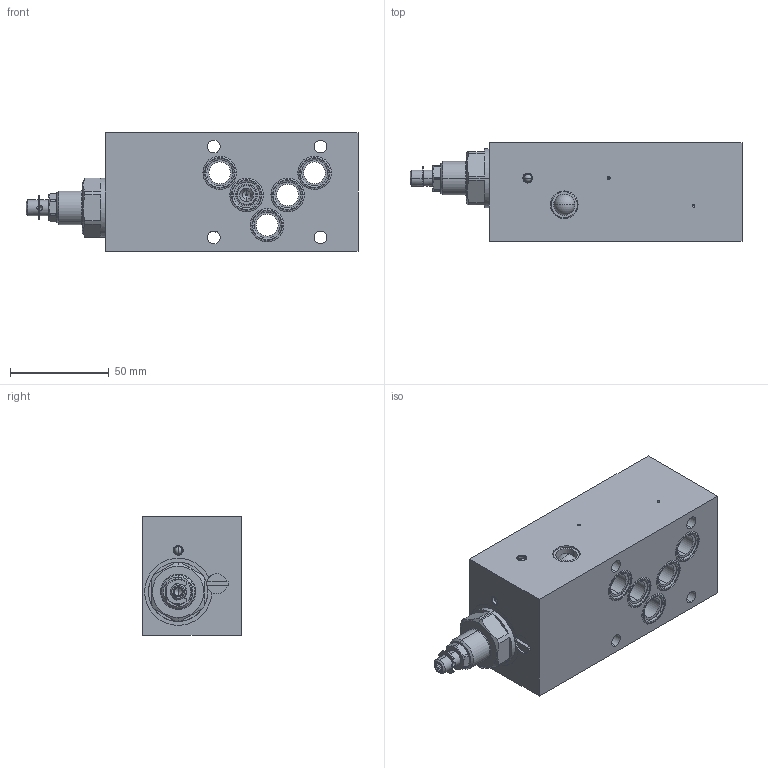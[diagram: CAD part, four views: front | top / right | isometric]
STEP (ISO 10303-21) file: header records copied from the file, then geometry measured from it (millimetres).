
FILE_DESCRIPTION (( 'STEP AP214' ), '1' );
FILE_NAME ('FVSSA10-A.STEP', '2017-03-23T07:09:47', ( '' ), ( '' ), 'SwSTEP 2.0', 'SolidWorks 2016', '' );
FILE_SCHEMA (( 'AUTOMOTIVE_DESIGN' ));
Length unit declared in the file: millimetre
Products named in the file (1): FVSSA10-A
Bounding box: 168.1 x 50 x 60 mm (x, y, z)
Volume: 363755.3 mm3; surface area: 54028.6 mm2
Topology: 10 solids, 15 shells, 412 faces, 998 edges, 623 vertices
Faces by surface type: cylinder 167, plane 106, cone 71, bspline 40, torus 16, sphere 12
Entity records: 17644 total; most frequent: CARTESIAN_POINT 3699, DIRECTION 2027, ORIENTED_EDGE 1952, EDGE_CURVE 976, AXIS2_PLACEMENT_3D 861, VERTEX_POINT 623, CIRCLE 488, EDGE_LOOP 471
